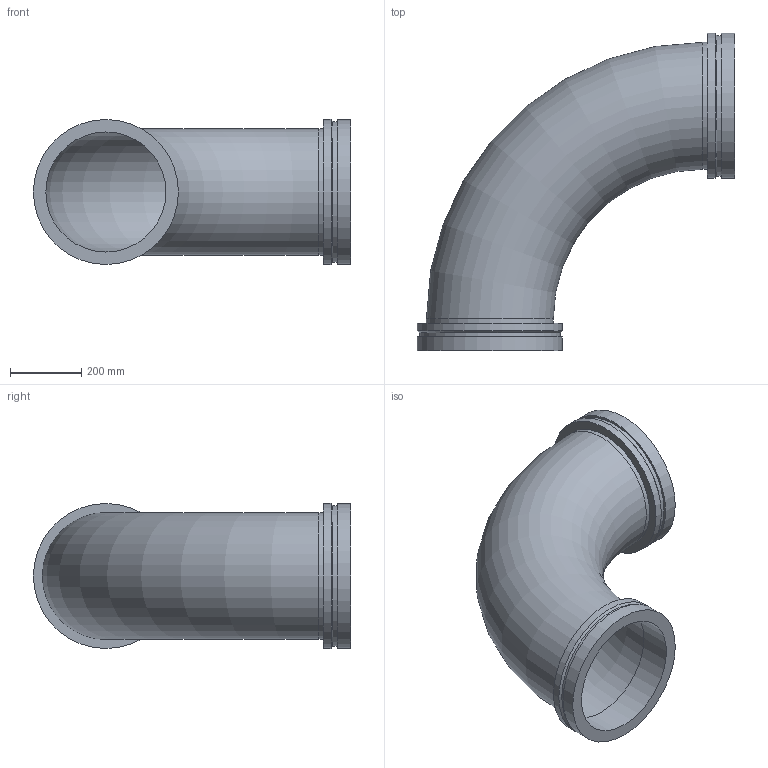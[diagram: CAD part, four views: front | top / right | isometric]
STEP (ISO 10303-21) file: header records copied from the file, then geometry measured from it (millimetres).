
FILE_DESCRIPTION(/* description */ ('VIC 90 DEG ELBOW No W100 VR','CAx-IF Rec.Pracs.---Representation and Presentation of Product Manufacturing Information (PMI)---4.0---2014-10-13'),/* implementation_level */ '2;1');
FILE_NAME(/* name */ 'C:\Users\kkamble\AppData\Roaming\Autodesk\ApplicationPlugins\Back Up\Victaulic_Vic-Ring_Elbow 90 Deg LR_No W100 VR (AGR)\Victaulic_Vic-Ring_Elbow 90 Deg LR_No W100 VR (AGR)_14 (350).stp',/* time_stamp */ '2020-09-10T11:43:40+05:00',/* author */ ('cps_temp'),/* organization */ ('Victaulic'),/* preprocessor_version */ 'ST-DEVELOPER v17.2',/* originating_system */ 'Autodesk Inventor 2019',/* authorisation */ '');
FILE_SCHEMA (('AP242_MANAGED_MODEL_BASED_3D_ENGINEERING_MIM_LF { 1 0 10303 442 1 1 4 }'));
Length unit declared in the file: inch
Products named in the file (1): W100 VR-14.0
Bounding box: 889 x 889 x 406.4 mm (x, y, z)
Volume: 15957104.1 mm3; surface area: 2614316.2 mm2
Topology: 1 solids, 1 shells, 20 faces, 51 edges, 37 vertices
Faces by surface type: cylinder 10, plane 6, cone 2, torus 2
Full cylindrical faces by diameter (mm): 336.55 x2, 355.6 x2, 393.7 x2, 406.4 x4
Entity records: 802 total; most frequent: DIRECTION 158, CARTESIAN_POINT 126, ORIENTED_EDGE 102, AXIS2_PLACEMENT_3D 73, EDGE_CURVE 51, CIRCLE 39, VERTEX_POINT 37, EDGE_LOOP 26
